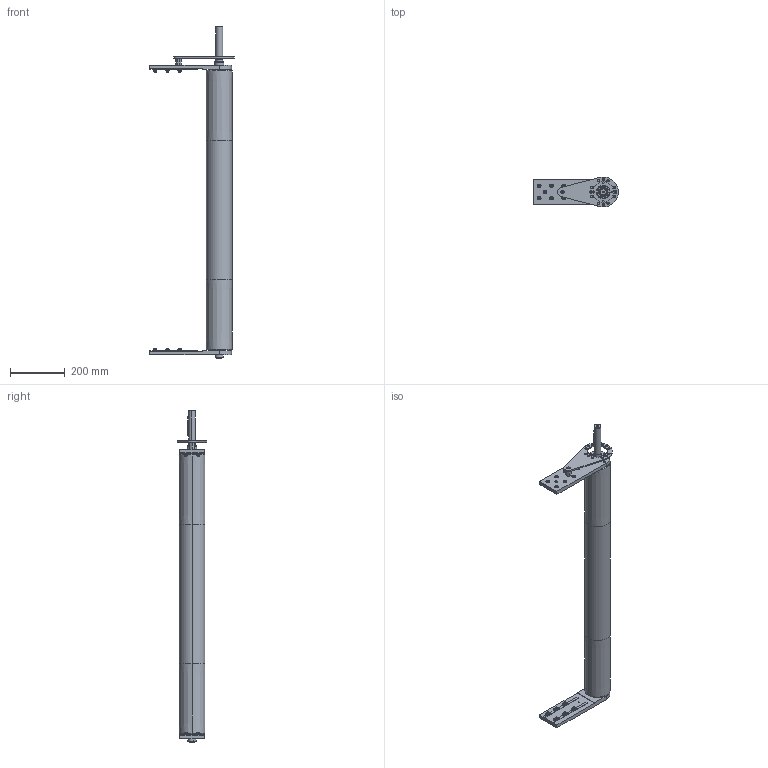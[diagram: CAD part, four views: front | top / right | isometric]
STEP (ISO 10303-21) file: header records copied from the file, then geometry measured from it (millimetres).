
FILE_DESCRIPTION (( 'STEP AP203' ), '1' );
FILE_NAME ('084.095.KD.63.1000.STEP', '2019-07-30T07:20:11', ( '' ), ( '' ), 'SwSTEP 2.0', 'SolidWorks 2018', '' );
FILE_SCHEMA (( 'CONFIG_CONTROL_DESIGN' ));
Length unit declared in the file: millimetre
Products named in the file (15): 084.095.KD.63.1000; 084.302.000 DADI ALUSIC 13x13_084.302.004; 084.808.003_084.808.003; 084.802.027; 084.810.003; 084.808.005-1; 084.808.002_084.808.002; 084.812.004; 084.816.116_084.816.107<A macchina>; Circlip DIN 471 - 30 x 1.5_Circlip DIN 471 - 30 x 1.5; 084.802.019_084.802.019; CHIAVETTE_A 8x7x70 UNI 6604-69; 084.812.003; 084.301.000 VITI ALUSIC_084.301.003; 084.802.034_084.802.034
Assembly tree (38 placements, depth 2):
  084.095.KD.63.1000
    084.808.005-1
    084.802.027
    084.812.004
    084.802.034_084.802.034
    084.301.000 VITI ALUSIC_084.301.003  x12
    084.302.000 DADI ALUSIC 13x13_084.302.004  x12
    084.816.116_084.816.107<A macchina>
    084.812.003
    084.808.003_084.808.003
    084.808.002_084.808.002
    084.810.003  x2
    084.802.019_084.802.019
    CHIAVETTE_A 8x7x70 UNI 6604-69
    Circlip DIN 471 - 30 x 1.5_Circlip DIN 471 - 30 x 1.5  x2
Bounding box: 310 x 110 x 1217.5 mm (x, y, z)
Volume: 2835042.4 mm3; surface area: 1274876.1 mm2
Topology: 43 solids, 44 shells, 1026 faces, 2565 edges, 1667 vertices
Faces by surface type: plane 456, cylinder 347, torus 92, cone 74, bspline 48, sphere 9
Entity records: 22107 total; most frequent: CARTESIAN_POINT 4405, DIRECTION 3356, ORIENTED_EDGE 3142, EDGE_CURVE 1571, AXIS2_PLACEMENT_3D 1325, VERTEX_POINT 1024, EDGE_LOOP 747, CIRCLE 720
